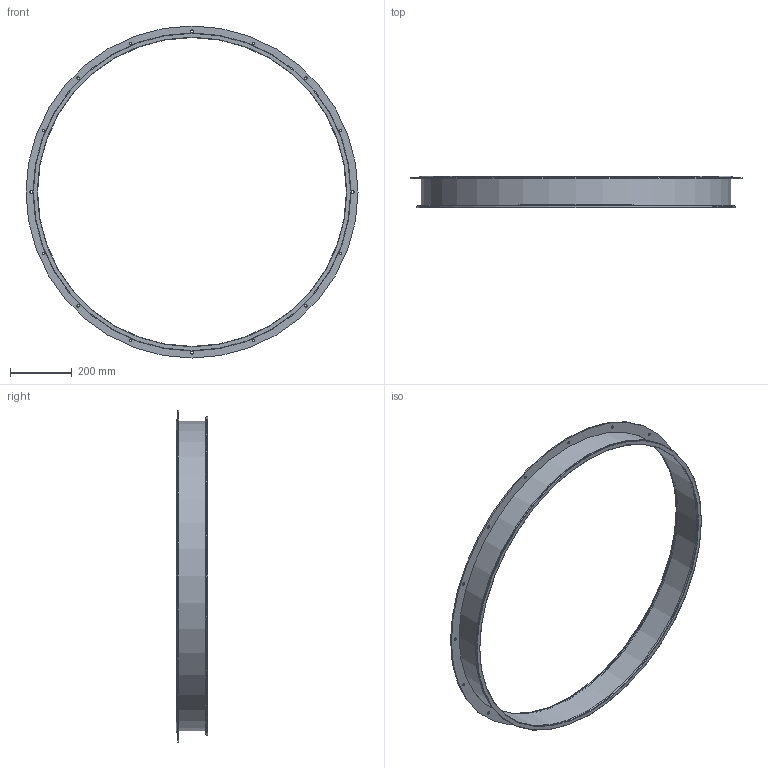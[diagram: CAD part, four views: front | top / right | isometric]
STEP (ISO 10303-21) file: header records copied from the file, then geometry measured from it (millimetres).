
FILE_DESCRIPTION(/* description */ (''),/* implementation_level */ '2;1');
FILE_NAME(/* name */ 'METU_EA117-41B_1000_L100.stp',/* time_stamp */ '2018-10-10T16:34:56+02:00',/* author */ (''),/* organization */ (''),/* preprocessor_version */ 'ST-DEVELOPER v11',/* originating_system */ 'SIEMENS UGS NX 6.0',/* authorisation */ '');
FILE_SCHEMA (('CONFIG_CONTROL_DESIGN'));
Length unit declared in the file: millimetre
Products named in the file (1): garsCF17deaz
Bounding box: 1075 x 101.5 x 1075 mm (x, y, z)
Volume: 1217496.7 mm3; surface area: 1101204.2 mm2
Topology: 3 solids, 3 shells, 40 faces, 109 edges, 78 vertices
Faces by surface type: cylinder 25, plane 9, torus 5, cone 1
Full cylindrical faces by diameter (mm): 9.5 x16, 1000 x2, 1002.4 x2, 1005 x1, 1012.4 x2, 1030 x1, 1075 x1
Entity records: 1122 total; most frequent: DIRECTION 194, CARTESIAN_POINT 153, FACE_BOUND 112, EDGE_LOOP 112, ORIENTED_EDGE 112, AXIS2_PLACEMENT_3D 97, VERTEX_POINT 56, EDGE_CURVE 56
